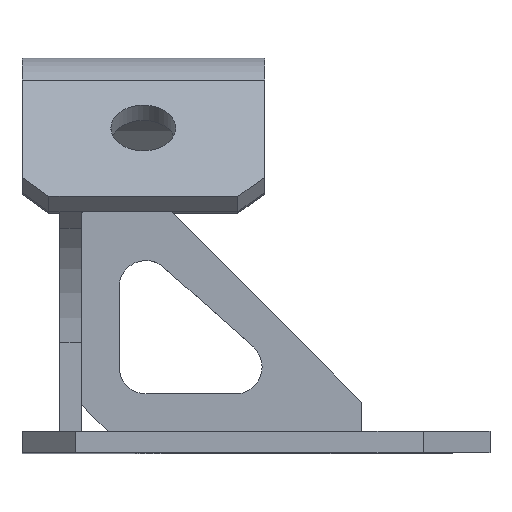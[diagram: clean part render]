
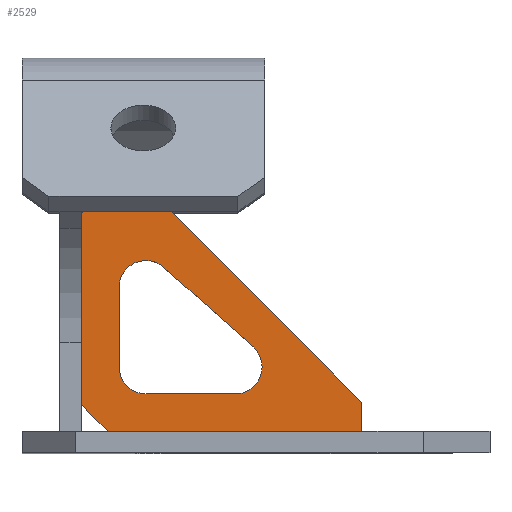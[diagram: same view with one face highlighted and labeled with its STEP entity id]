
A CAD part, top view. The second image highlights one B-rep face of the part: STEP entity #2529.
In plain terms, the highlighted planar face has unit normal (0, 0, 1).
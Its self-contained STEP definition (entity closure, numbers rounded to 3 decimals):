
#419=FACE_BOUND('',#723,.T.);
#491=PLANE('',#2739);
#600=FACE_OUTER_BOUND('',#722,.T.);
#722=EDGE_LOOP('',(#2371,#2372,#2373,#2374,#2375,#2376,#2377));
#723=EDGE_LOOP('',(#2378,#2379,#2380,#2381,#2382,#2383));
#914=LINE('',#4042,#1137);
#920=LINE('',#4053,#1143);
#929=LINE('',#4078,#1152);
#932=LINE('',#4083,#1155);
#935=LINE('',#4092,#1158);
#938=LINE('',#4100,#1161);
#941=LINE('',#4107,#1164);
#943=LINE('',#4112,#1166);
#945=LINE('',#4115,#1168);
#946=LINE('',#4117,#1169);
#1137=VECTOR('',#3319,10.);
#1143=VECTOR('',#3327,10.);
#1152=VECTOR('',#3346,10.);
#1155=VECTOR('',#3351,10.);
#1158=VECTOR('',#3360,10.);
#1161=VECTOR('',#3369,10.);
#1164=VECTOR('',#3378,10.);
#1166=VECTOR('',#3382,10.);
#1168=VECTOR('',#3386,10.);
#1169=VECTOR('',#3389,10.);
#1241=CIRCLE('',#2728,5.);
#1242=CIRCLE('',#2731,5.);
#1243=CIRCLE('',#2734,5.);
#1467=VERTEX_POINT('',#4040);
#1468=VERTEX_POINT('',#4041);
#1472=VERTEX_POINT('',#4051);
#1483=VERTEX_POINT('',#4077);
#1484=VERTEX_POINT('',#4081);
#1485=VERTEX_POINT('',#4085);
#1486=VERTEX_POINT('',#4086);
#1487=VERTEX_POINT('',#4091);
#1488=VERTEX_POINT('',#4095);
#1489=VERTEX_POINT('',#4099);
#1490=VERTEX_POINT('',#4103);
#1491=VERTEX_POINT('',#4109);
#1492=VERTEX_POINT('',#4111);
#1751=EDGE_CURVE('',#1467,#1468,#914,.T.);
#1757=EDGE_CURVE('',#1472,#1467,#920,.T.);
#1769=EDGE_CURVE('',#1483,#1472,#929,.T.);
#1772=EDGE_CURVE('',#1483,#1484,#932,.T.);
#1773=EDGE_CURVE('',#1485,#1486,#1241,.T.);
#1776=EDGE_CURVE('',#1486,#1487,#935,.T.);
#1778=EDGE_CURVE('',#1487,#1488,#1242,.T.);
#1780=EDGE_CURVE('',#1488,#1489,#938,.T.);
#1782=EDGE_CURVE('',#1489,#1490,#1243,.T.);
#1784=EDGE_CURVE('',#1490,#1485,#941,.T.);
#1786=EDGE_CURVE('',#1491,#1492,#943,.T.);
#1788=EDGE_CURVE('',#1468,#1491,#945,.T.);
#1789=EDGE_CURVE('',#1484,#1492,#946,.T.);
#2371=ORIENTED_EDGE('',*,*,#1751,.F.);
#2372=ORIENTED_EDGE('',*,*,#1757,.F.);
#2373=ORIENTED_EDGE('',*,*,#1769,.F.);
#2374=ORIENTED_EDGE('',*,*,#1772,.T.);
#2375=ORIENTED_EDGE('',*,*,#1789,.T.);
#2376=ORIENTED_EDGE('',*,*,#1786,.F.);
#2377=ORIENTED_EDGE('',*,*,#1788,.F.);
#2378=ORIENTED_EDGE('',*,*,#1773,.T.);
#2379=ORIENTED_EDGE('',*,*,#1776,.T.);
#2380=ORIENTED_EDGE('',*,*,#1778,.T.);
#2381=ORIENTED_EDGE('',*,*,#1780,.T.);
#2382=ORIENTED_EDGE('',*,*,#1782,.T.);
#2383=ORIENTED_EDGE('',*,*,#1784,.T.);
#2529=ADVANCED_FACE('',(#600,#419),#491,.T.);
#2728=AXIS2_PLACEMENT_3D('',#4087,#3354,#3355);
#2731=AXIS2_PLACEMENT_3D('',#4096,#3364,#3365);
#2734=AXIS2_PLACEMENT_3D('',#4104,#3373,#3374);
#2739=AXIS2_PLACEMENT_3D('',#4118,#3390,#3391);
#3319=DIRECTION('',(0.707,0.707,0.));
#3327=DIRECTION('',(0.,1.,0.));
#3346=DIRECTION('',(-0.707,0.707,0.));
#3351=DIRECTION('',(1.,0.,0.));
#3354=DIRECTION('center_axis',(0.,0.,-1.));
#3355=DIRECTION('ref_axis',(-1.,0.,0.));
#3360=DIRECTION('',(0.746,-0.666,0.));
#3364=DIRECTION('center_axis',(0.,0.,-1.));
#3365=DIRECTION('ref_axis',(0.666,0.746,0.));
#3369=DIRECTION('',(-1.,0.,0.));
#3373=DIRECTION('center_axis',(0.,0.,-1.));
#3374=DIRECTION('ref_axis',(0.,-1.,0.));
#3378=DIRECTION('',(0.,1.,0.));
#3382=DIRECTION('',(0.707,-0.707,0.));
#3386=DIRECTION('',(1.,0.,0.));
#3389=DIRECTION('',(0.,1.,0.));
#3390=DIRECTION('center_axis',(0.,0.,1.));
#3391=DIRECTION('ref_axis',(1.,0.,0.));
#4040=CARTESIAN_POINT('',(-11.5,44.5,2.));
#4041=CARTESIAN_POINT('',(-6.5,49.5,2.));
#4042=CARTESIAN_POINT('',(-20.375,35.625,2.));
#4051=CARTESIAN_POINT('',(-11.5,9.,2.));
#4053=CARTESIAN_POINT('',(-11.5,4.,2.));
#4077=CARTESIAN_POINT('',(-6.5,4.,2.));
#4078=CARTESIAN_POINT('',(-9.,6.5,2.));
#4081=CARTESIAN_POINT('',(40.5,4.,2.));
#4083=CARTESIAN_POINT('',(-11.5,4.,2.));
#4085=CARTESIAN_POINT('',(-4.5,30.751,2.));
#4086=CARTESIAN_POINT('',(3.829,34.481,2.));
#4087=CARTESIAN_POINT('Origin',(0.5,30.751,2.));
#4091=CARTESIAN_POINT('',(20.359,19.731,2.));
#4092=CARTESIAN_POINT('',(15.398,24.157,2.));
#4095=CARTESIAN_POINT('',(17.029,11.,2.));
#4096=CARTESIAN_POINT('Origin',(17.029,16.,2.));
#4099=CARTESIAN_POINT('',(0.5,11.,2.));
#4100=CARTESIAN_POINT('',(-5.5,11.,2.));
#4103=CARTESIAN_POINT('',(-4.5,16.,2.));
#4104=CARTESIAN_POINT('Origin',(0.5,16.,2.));
#4107=CARTESIAN_POINT('',(-4.5,17.375,2.));
#4109=CARTESIAN_POINT('',(0.5,49.5,2.));
#4111=CARTESIAN_POINT('',(40.5,9.5,2.));
#4112=CARTESIAN_POINT('',(18.875,31.125,2.));
#4115=CARTESIAN_POINT('',(-11.5,49.5,2.));
#4117=CARTESIAN_POINT('',(40.5,4.,2.));
#4118=CARTESIAN_POINT('Origin',(-11.5,4.,2.));
